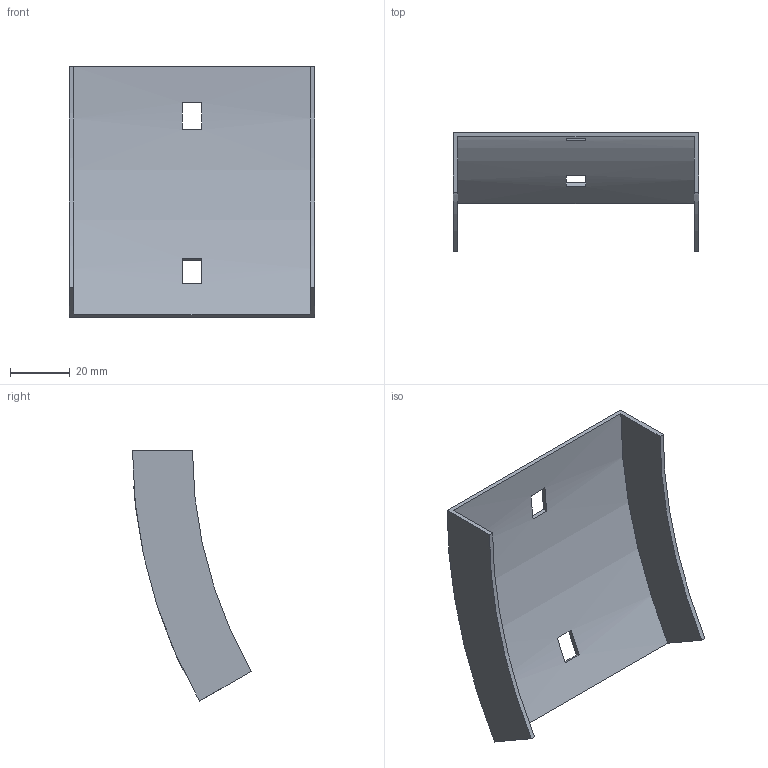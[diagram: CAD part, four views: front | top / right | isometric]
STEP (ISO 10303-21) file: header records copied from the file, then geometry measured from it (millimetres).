
FILE_DESCRIPTION (( 'STEP AP214' ), '1' );
FILE_NAME ('35N1H075.step', '2025-02-21T09:12:20', ( '' ), ( '' ), 'SwSTEP 2.0', 'SolidWorks 2023', '' );
FILE_SCHEMA (( 'AUTOMOTIVE_DESIGN' ));
Length unit declared in the file: millimetre
Products named in the file (1): 35N1H075
Bounding box: 82 x 39.69 x 83.5 mm (x, y, z)
Volume: 15071.1 mm3; surface area: 20777.4 mm2
Topology: 1 solids, 1 shells, 18 faces, 48 edges, 32 vertices
Faces by surface type: plane 14, cylinder 4
Entity records: 599 total; most frequent: DIRECTION 102, CARTESIAN_POINT 99, ORIENTED_EDGE 96, EDGE_CURVE 48, AXIS2_PLACEMENT_3D 35, VECTOR 32, LINE 32, VERTEX_POINT 32
